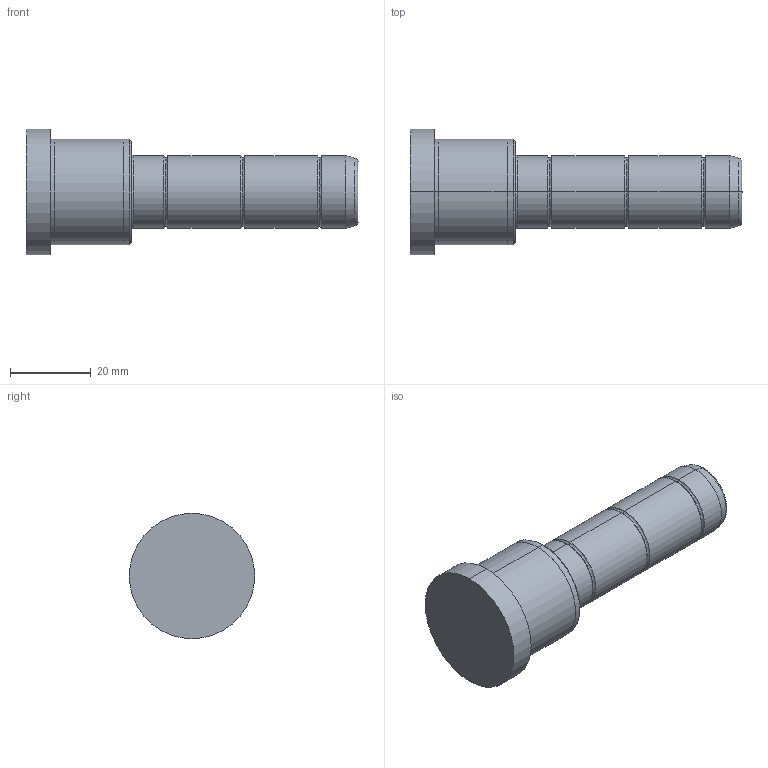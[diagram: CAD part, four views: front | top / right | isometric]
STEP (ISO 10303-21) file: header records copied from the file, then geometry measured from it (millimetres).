
FILE_DESCRIPTION( ( 'STEP AP203' ), '1' );
FILE_NAME( 'C:/Projects/D02 - 18x26x56.step', '2003-01-04T13:24:46', ( ' ' ), ( ' ' ), 'XStep 1.0', ' ', ' ' );
FILE_SCHEMA( ( 'CONFIG_CONTROL_DESIGN' ) );
Length unit declared in the file: metre
Products named in the file (1): 1
Bounding box: 82 x 31 x 31 mm (x, y, z)
Volume: 29267.4 mm3; surface area: 6890.9 mm2
Topology: 1 solids, 1 shells, 42 faces, 82 edges, 46 vertices
Faces by surface type: bspline 22, revolution 20
Entity records: 1325 total; most frequent: CARTESIAN_POINT 517, ORIENTED_EDGE 164, DIRECTION 134, EDGE_CURVE 82, AXIS2_PLACEMENT_3D 47, EDGE_LOOP 46, VERTEX_POINT 46, CIRCLE 46
